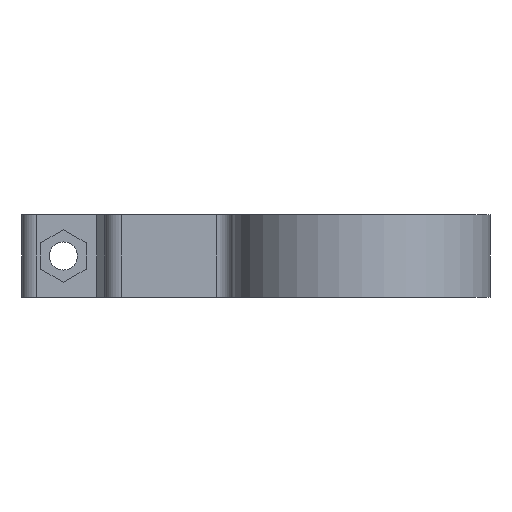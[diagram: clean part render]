
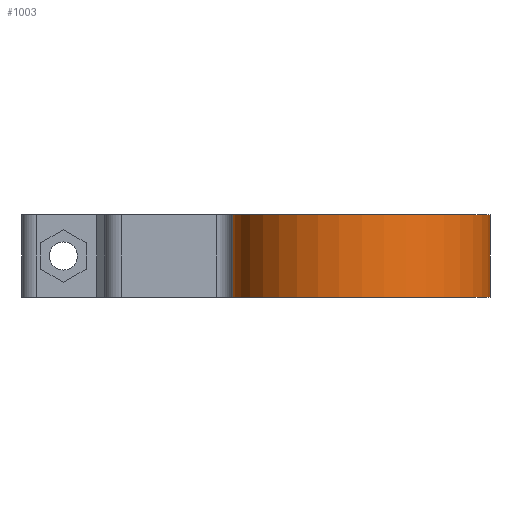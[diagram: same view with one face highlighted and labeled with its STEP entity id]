
A CAD part, left-side view. The second image highlights one B-rep face of the part: STEP entity #1003.
In plain terms, the highlighted cylindrical face has radius 15.5 mm (diameter 31 mm), a partial arc.
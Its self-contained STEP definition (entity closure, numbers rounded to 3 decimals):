
#99=FACE_OUTER_BOUND('',#154,.T.);
#154=EDGE_LOOP('',(#916,#917,#918,#919));
#244=LINE('',#1623,#352);
#265=LINE('',#1682,#373);
#352=VECTOR('',#1311,10.);
#373=VECTOR('',#1384,10.);
#388=CIRCLE('',#1042,15.5);
#395=CIRCLE('',#1051,15.5);
#444=VERTEX_POINT('',#1465);
#445=VERTEX_POINT('',#1467);
#463=VERTEX_POINT('',#1507);
#464=VERTEX_POINT('',#1509);
#541=EDGE_CURVE('',#444,#445,#388,.T.);
#562=EDGE_CURVE('',#463,#464,#395,.T.);
#622=EDGE_CURVE('',#464,#444,#244,.T.);
#649=EDGE_CURVE('',#463,#445,#265,.T.);
#916=ORIENTED_EDGE('',*,*,#649,.T.);
#917=ORIENTED_EDGE('',*,*,#541,.F.);
#918=ORIENTED_EDGE('',*,*,#622,.F.);
#919=ORIENTED_EDGE('',*,*,#562,.F.);
#956=CYLINDRICAL_SURFACE('',#1110,15.5);
#1003=ADVANCED_FACE('',(#99),#956,.T.);
#1042=AXIS2_PLACEMENT_3D('',#1468,#1165,#1166);
#1051=AXIS2_PLACEMENT_3D('',#1510,#1197,#1198);
#1110=AXIS2_PLACEMENT_3D('',#1683,#1385,#1386);
#1165=DIRECTION('center_axis',(0.,0.,1.));
#1166=DIRECTION('ref_axis',(0.,1.,0.));
#1197=DIRECTION('center_axis',(0.,0.,-1.));
#1198=DIRECTION('ref_axis',(0.,1.,0.));
#1311=DIRECTION('',(0.,0.,1.));
#1384=DIRECTION('',(0.,0.,1.));
#1385=DIRECTION('center_axis',(0.,0.,1.));
#1386=DIRECTION('ref_axis',(0.,1.,0.));
#1465=CARTESIAN_POINT('',(-20.,15.5,5.));
#1467=CARTESIAN_POINT('',(-20.,-15.5,5.));
#1468=CARTESIAN_POINT('Origin',(-20.,0.,5.));
#1507=CARTESIAN_POINT('',(-20.,-15.5,-5.));
#1509=CARTESIAN_POINT('',(-20.,15.5,-5.));
#1510=CARTESIAN_POINT('Origin',(-20.,0.,-5.));
#1623=CARTESIAN_POINT('',(-20.,15.5,0.));
#1682=CARTESIAN_POINT('',(-20.,-15.5,0.));
#1683=CARTESIAN_POINT('Origin',(-20.,0.,0.));
